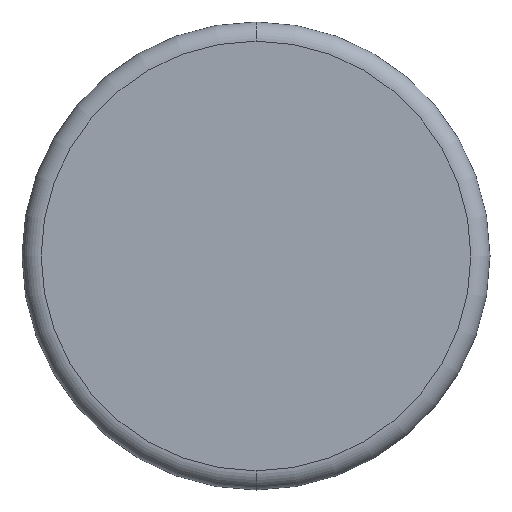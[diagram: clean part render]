
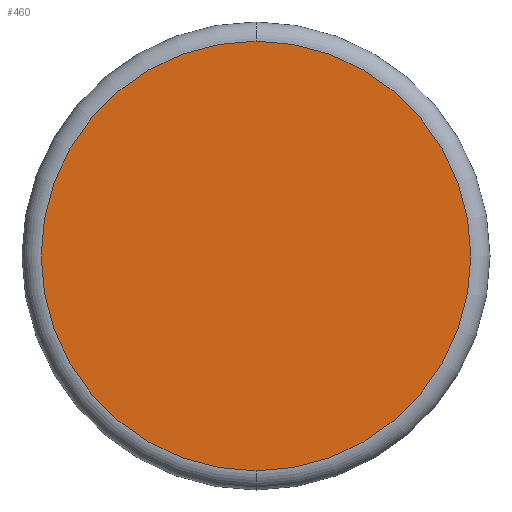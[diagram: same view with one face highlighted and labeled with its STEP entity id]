
A CAD part, left-side view. The second image highlights one B-rep face of the part: STEP entity #460.
In plain terms, the highlighted planar face has unit normal (-1, 0, 0).
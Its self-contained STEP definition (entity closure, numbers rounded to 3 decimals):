
#49=CARTESIAN_POINT('',(-23.3,0.,-42.5));
#50=VERTEX_POINT('',#49);
#60=CARTESIAN_POINT('',(-23.3,42.5,0.0));
#61=VERTEX_POINT('',#60);
#62=CARTESIAN_POINT('',(-23.3,0.,0.0));
#63=DIRECTION('',(1.0,0.0,0.0));
#64=DIRECTION('',(0.0,1.0,0.0));
#65=AXIS2_PLACEMENT_3D('',#62,#63,#64);
#66=CIRCLE('',#65,42.5);
#67=EDGE_CURVE('',#50,#61,#66,.T.);
#69=CARTESIAN_POINT('',(-23.3,0.,42.5));
#70=VERTEX_POINT('',#69);
#71=CARTESIAN_POINT('',(-23.3,0.,0.0));
#72=DIRECTION('',(1.0,0.0,0.0));
#73=DIRECTION('',(0.0,1.0,0.0));
#74=AXIS2_PLACEMENT_3D('',#71,#72,#73);
#75=CIRCLE('',#74,42.5);
#76=EDGE_CURVE('',#61,#70,#75,.T.);
#444=CARTESIAN_POINT('',(-23.3,21.25,0.0));
#445=DIRECTION('',(-1.0,0.0,0.0));
#446=DIRECTION('',(0.0,0.0,1.0));
#447=AXIS2_PLACEMENT_3D('',#444,#445,#446);
#448=PLANE('',#447);
#449=ORIENTED_EDGE('',*,*,#76,.F.);
#450=ORIENTED_EDGE('',*,*,#67,.F.);
#451=CARTESIAN_POINT('',(-23.3,0.,0.0));
#452=DIRECTION('',(1.0,0.0,0.0));
#453=DIRECTION('',(0.0,1.0,0.0));
#454=AXIS2_PLACEMENT_3D('',#451,#452,#453);
#455=CIRCLE('',#454,42.5);
#456=EDGE_CURVE('',#70,#50,#455,.T.);
#457=ORIENTED_EDGE('',*,*,#456,.F.);
#458=EDGE_LOOP('',(#449,#450,#457));
#459=FACE_OUTER_BOUND('',#458,.T.);
#460=ADVANCED_FACE('',(#459),#448,.T.);
